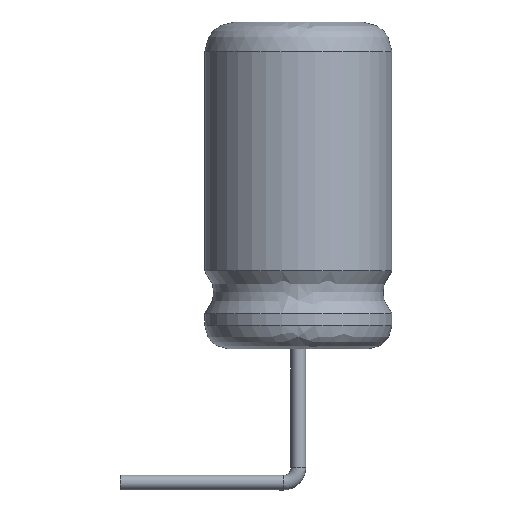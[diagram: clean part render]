
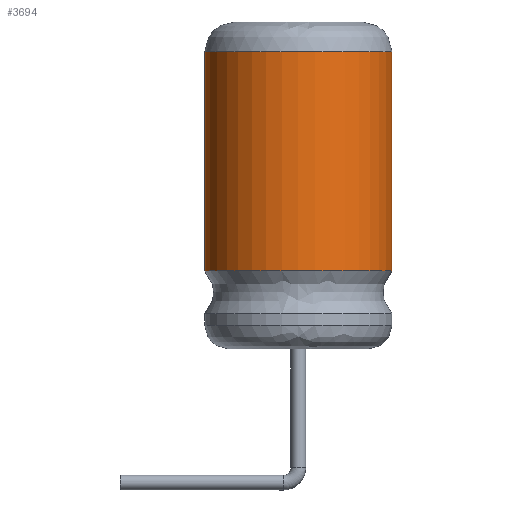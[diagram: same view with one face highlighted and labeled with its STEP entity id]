
A CAD part, front view. The second image highlights one B-rep face of the part: STEP entity #3694.
In plain terms, the highlighted cylindrical face has radius 3.15 mm (diameter 6.3 mm), a partial arc.
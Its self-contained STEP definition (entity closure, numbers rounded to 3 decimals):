
#236 = VERTEX_POINT ( 'NONE', #5396 ) ;
#690 = VECTOR ( 'NONE', #4440, 1000. ) ;
#743 = VERTEX_POINT ( 'NONE', #3308 ) ;
#1146 = CARTESIAN_POINT ( 'NONE',  ( -102.183, -58.002, 0.81 ) ) ;
#1209 = CARTESIAN_POINT ( 'NONE',  ( -105.333, -58.002, -2.88 ) ) ;
#1257 = EDGE_LOOP ( 'NONE', ( #6770, #3980, #4525, #5619 ) ) ;
#1294 = DIRECTION ( 'NONE',  ( 1., 0., 0. ) ) ;
#1311 = AXIS2_PLACEMENT_3D ( 'NONE', #4598, #2340, #1294 ) ;
#1332 = VECTOR ( 'NONE', #4601, 1000. ) ;
#1334 = CARTESIAN_POINT ( 'NONE',  ( -105.333, -58.002, 0.81 ) ) ;
#1624 = EDGE_CURVE ( 'NONE', #236, #743, #4921, .T. ) ;
#1629 = DIRECTION ( 'NONE',  ( 0., 0., 1. ) ) ;
#1653 = AXIS2_PLACEMENT_3D ( 'NONE', #2689, #5367, #5328 ) ;
#2102 = EDGE_CURVE ( 'NONE', #6965, #3545, #4932, .T. ) ;
#2164 = DIRECTION ( 'NONE',  ( 1., 0., 0. ) ) ;
#2262 = CYLINDRICAL_SURFACE ( 'NONE', #6643, 3.15 ) ;
#2340 = DIRECTION ( 'NONE',  ( 0., 0., -1. ) ) ;
#2689 = CARTESIAN_POINT ( 'NONE',  ( -102.183, -58.002, -2.88 ) ) ;
#2721 = CARTESIAN_POINT ( 'NONE',  ( -99.033, -58.002, 0.81 ) ) ;
#2733 = FACE_OUTER_BOUND ( 'NONE', #1257, .T. ) ;
#3308 = CARTESIAN_POINT ( 'NONE',  ( -105.333, -58.002, 4.5 ) ) ;
#3545 = VERTEX_POINT ( 'NONE', #6860 ) ;
#3694 = ADVANCED_FACE ( 'NONE', ( #2733 ), #2262, .T. ) ;
#3980 = ORIENTED_EDGE ( 'NONE', *, *, #2102, .T. ) ;
#3994 = EDGE_CURVE ( 'NONE', #3545, #236, #4226, .T. ) ;
#4226 = LINE ( 'NONE', #2721, #690 ) ;
#4440 = DIRECTION ( 'NONE',  ( 0., 0., 1. ) ) ;
#4525 = ORIENTED_EDGE ( 'NONE', *, *, #3994, .T. ) ;
#4598 = CARTESIAN_POINT ( 'NONE',  ( -102.183, -58.002, 4.5 ) ) ;
#4601 = DIRECTION ( 'NONE',  ( 0., 0., 1. ) ) ;
#4637 = LINE ( 'NONE', #1334, #1332 ) ;
#4921 = CIRCLE ( 'NONE', #1311, 3.15 ) ;
#4932 = CIRCLE ( 'NONE', #1653, 3.15 ) ;
#5328 = DIRECTION ( 'NONE',  ( 1., 0., 0. ) ) ;
#5367 = DIRECTION ( 'NONE',  ( 0., 0., 1. ) ) ;
#5396 = CARTESIAN_POINT ( 'NONE',  ( -99.033, -58.002, 4.5 ) ) ;
#5619 = ORIENTED_EDGE ( 'NONE', *, *, #1624, .T. ) ;
#5719 = EDGE_CURVE ( 'NONE', #6965, #743, #4637, .T. ) ;
#6643 = AXIS2_PLACEMENT_3D ( 'NONE', #1146, #1629, #2164 ) ;
#6770 = ORIENTED_EDGE ( 'NONE', *, *, #5719, .F. ) ;
#6860 = CARTESIAN_POINT ( 'NONE',  ( -99.033, -58.002, -2.88 ) ) ;
#6965 = VERTEX_POINT ( 'NONE', #1209 ) ;
